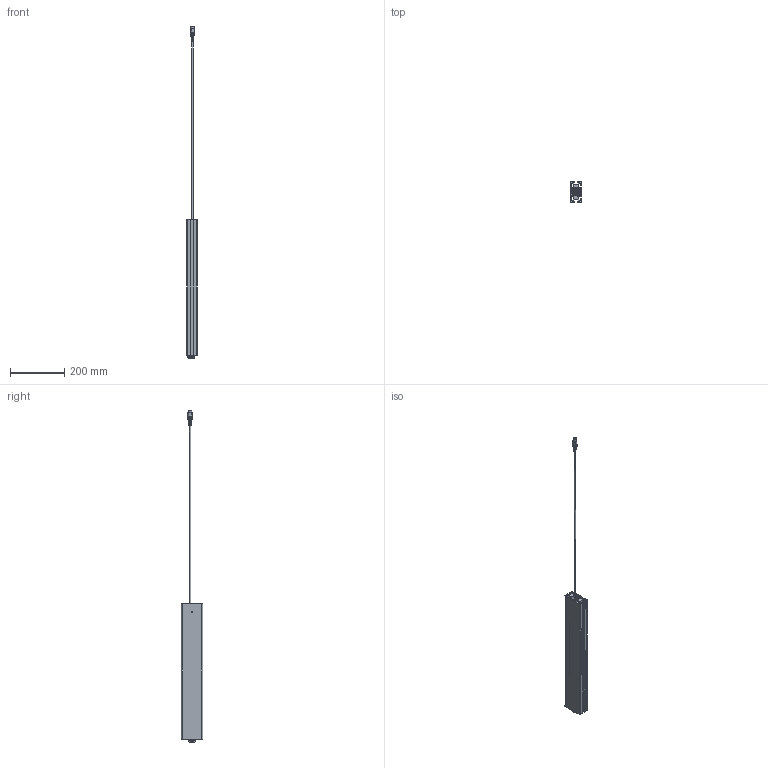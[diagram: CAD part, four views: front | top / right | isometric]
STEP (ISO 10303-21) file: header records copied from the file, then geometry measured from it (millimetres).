
FILE_DESCRIPTION (( 'STEP AP214' ), '1' );
FILE_NAME ('004 10268_ZB Actuator SMS-I-40x80_Hub150_eingefahren.STEP', '2018-09-03T12:52:39', ( '' ), ( '' ), 'SwSTEP 2.0', 'SolidWorks 2017', '' );
FILE_SCHEMA (( 'AUTOMOTIVE_DESIGN' ));
Length unit declared in the file: millimetre
Products named in the file (1): 004 10268_ZB Actuator SMS-I-40x80_Hub150_eingefahren
Bounding box: 40 x 80 x 1225.6 mm (x, y, z)
Surface area: 377391.1 mm2 (no closed solid volume)
Topology: 0 solids, 5 shells, 2847 faces, 7689 edges, 4710 vertices
Faces by surface type: bspline 910, plane 840, cylinder 679, cone 288, torus 85, sphere 45
Entity records: 161147 total; most frequent: CARTESIAN_POINT 85619, ORIENTED_EDGE 14906, DIRECTION 10443, EDGE_CURVE 7456, VERTEX_POINT 4704, AXIS2_PLACEMENT_3D 3996, EDGE_LOOP 2957, FACE_OUTER_BOUND 2847
